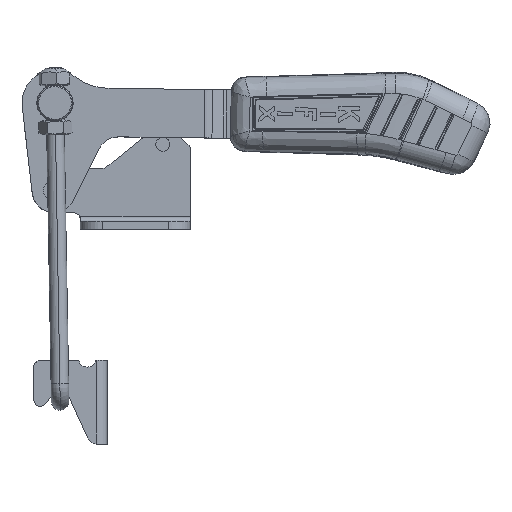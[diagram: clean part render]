
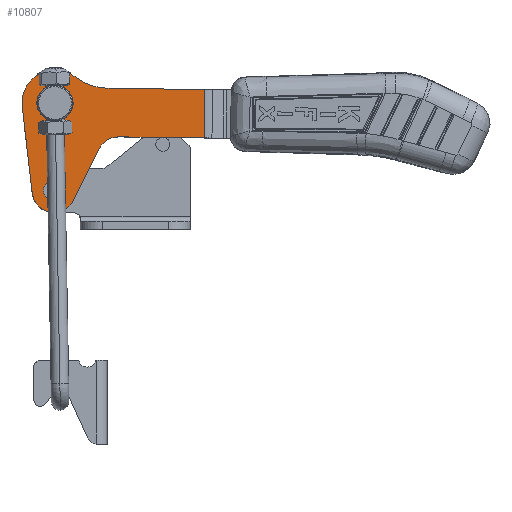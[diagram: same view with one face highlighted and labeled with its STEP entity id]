
A CAD part, top view. The second image highlights one B-rep face of the part: STEP entity #10807.
In plain terms, the highlighted planar face has unit normal (0, 0, 1).
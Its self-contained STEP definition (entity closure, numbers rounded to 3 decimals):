
#69 = ORIENTED_EDGE ( 'NONE', *, *, #8397, .T. ) ;
#117 = VERTEX_POINT ( 'NONE', #678 ) ;
#678 = CARTESIAN_POINT ( 'NONE',  ( -76.974, 11., 8.5 ) ) ;
#966 = LINE ( 'NONE', #9188, #5599 ) ;
#1025 = DIRECTION ( 'NONE',  ( 1., 0., 0. ) ) ;
#1136 = DIRECTION ( 'NONE',  ( 0., 0., 1. ) ) ;
#1266 = AXIS2_PLACEMENT_3D ( 'NONE', #6189, #20021, #8167 ) ;
#2114 = CARTESIAN_POINT ( 'NONE',  ( -159.856, 2.069, 8.5 ) ) ;
#2453 = EDGE_CURVE ( 'NONE', #23562, #3911, #6340, .T. ) ;
#2566 = CARTESIAN_POINT ( 'NONE',  ( -144.981, -35.8, 8.5 ) ) ;
#3233 = CIRCLE ( 'NONE', #18004, 8.25 ) ;
#3391 = LINE ( 'NONE', #23637, #18529 ) ;
#3605 = ORIENTED_EDGE ( 'NONE', *, *, #20645, .T. ) ;
#3664 = CARTESIAN_POINT ( 'NONE',  ( -144.981, -35.8, 8.5 ) ) ;
#3670 = CARTESIAN_POINT ( 'NONE',  ( -135.981, 16., 8.5 ) ) ;
#3911 = VERTEX_POINT ( 'NONE', #22608 ) ;
#3962 = CARTESIAN_POINT ( 'NONE',  ( 1.019, 11., 8.5 ) ) ;
#4412 = LINE ( 'NONE', #3962, #24224 ) ;
#4476 = CARTESIAN_POINT ( 'NONE',  ( -115.74, -21., 8.5 ) ) ;
#4486 = DIRECTION ( 'NONE',  ( 1., 0., 0. ) ) ;
#4562 = DIRECTION ( 'NONE',  ( 1., 0., 0. ) ) ;
#4576 = FACE_BOUND ( 'NONE', #18660, .T. ) ;
#4602 = DIRECTION ( 'NONE',  ( 0., 0., 1. ) ) ;
#4675 = CIRCLE ( 'NONE', #20271, 10. ) ;
#4721 = EDGE_CURVE ( 'NONE', #3911, #23562, #16758, .T. ) ;
#5599 = VECTOR ( 'NONE', #11178, 1000. ) ;
#5613 = CARTESIAN_POINT ( 'NONE',  ( -76.974, -11., 8.5 ) ) ;
#5652 = DIRECTION ( 'NONE',  ( 1., 0., 0. ) ) ;
#6189 = CARTESIAN_POINT ( 'NONE',  ( -144.981, 4., 8.5 ) ) ;
#6340 = CIRCLE ( 'NONE', #10919, 4. ) ;
#6469 = DIRECTION ( 'NONE',  ( 1., 0., 0. ) ) ;
#6615 = EDGE_CURVE ( 'NONE', #14985, #13432, #9015, .T. ) ;
#6892 = EDGE_CURVE ( 'NONE', #17181, #15847, #4675, .T. ) ;
#7044 = ORIENTED_EDGE ( 'NONE', *, *, #24983, .T. ) ;
#7045 = VERTEX_POINT ( 'NONE', #10700 ) ;
#7217 = EDGE_LOOP ( 'NONE', ( #69, #16075, #23430, #12691, #7044, #21148, #19403, #25192, #3605 ) ) ;
#7411 = VERTEX_POINT ( 'NONE', #2114 ) ;
#7435 = CARTESIAN_POINT ( 'NONE',  ( -124.741, -16.644, 8.5 ) ) ;
#8167 = DIRECTION ( 'NONE',  ( 1., 0., 0. ) ) ;
#8397 = EDGE_CURVE ( 'NONE', #8783, #117, #3391, .T. ) ;
#8783 = VERTEX_POINT ( 'NONE', #5613 ) ;
#9015 = CIRCLE ( 'NONE', #14143, 9.875 ) ;
#9136 = AXIS2_PLACEMENT_3D ( 'NONE', #3664, #17471, #5652 ) ;
#9188 = CARTESIAN_POINT ( 'NONE',  ( -154.774, -37.072, 8.5 ) ) ;
#9213 = FACE_OUTER_BOUND ( 'NONE', #7217, .T. ) ;
#9842 = DIRECTION ( 'NONE',  ( -1., 0., 0. ) ) ;
#10300 = EDGE_CURVE ( 'NONE', #22213, #11640, #21325, .T. ) ;
#10468 = DIRECTION ( 'NONE',  ( 0., 0., 1. ) ) ;
#10490 = LINE ( 'NONE', #20135, #11119 ) ;
#10604 = DIRECTION ( 'NONE',  ( 0., 0., -1. ) ) ;
#10700 = CARTESIAN_POINT ( 'NONE',  ( -120.981, 11., 8.5 ) ) ;
#10807 = ADVANCED_FACE ( 'NONE', ( #9213, #14493, #4576 ), #16727, .F. ) ;
#10919 = AXIS2_PLACEMENT_3D ( 'NONE', #2566, #16388, #4562 ) ;
#10954 = ORIENTED_EDGE ( 'NONE', *, *, #13678, .F. ) ;
#11119 = VECTOR ( 'NONE', #4486, 1000. ) ;
#11178 = DIRECTION ( 'NONE',  ( 0.129, -0.992, 0. ) ) ;
#11439 = LINE ( 'NONE', #14217, #21968 ) ;
#11640 = VERTEX_POINT ( 'NONE', #22294 ) ;
#11653 = AXIS2_PLACEMENT_3D ( 'NONE', #22469, #10604, #24454 ) ;
#12691 = ORIENTED_EDGE ( 'NONE', *, *, #21111, .T. ) ;
#12878 = DIRECTION ( 'NONE',  ( 0., 0., -1. ) ) ;
#12984 = CARTESIAN_POINT ( 'NONE',  ( -144.981, -35.8, 8.5 ) ) ;
#13432 = VERTEX_POINT ( 'NONE', #21061 ) ;
#13678 = EDGE_CURVE ( 'NONE', #11640, #22213, #3233, .T. ) ;
#14143 = AXIS2_PLACEMENT_3D ( 'NONE', #12984, #1136, #14977 ) ;
#14217 = CARTESIAN_POINT ( 'NONE',  ( -136.092, -40.101, 8.5 ) ) ;
#14493 = FACE_BOUND ( 'NONE', #20099, .T. ) ;
#14977 = DIRECTION ( 'NONE',  ( 1., 0., 0. ) ) ;
#14985 = VERTEX_POINT ( 'NONE', #21365 ) ;
#15847 = VERTEX_POINT ( 'NONE', #17928 ) ;
#16075 = ORIENTED_EDGE ( 'NONE', *, *, #23808, .T. ) ;
#16318 = VERTEX_POINT ( 'NONE', #3670 ) ;
#16388 = DIRECTION ( 'NONE',  ( 0., 0., 1. ) ) ;
#16423 = CARTESIAN_POINT ( 'NONE',  ( -144.981, 4., 8.5 ) ) ;
#16727 = PLANE ( 'NONE',  #17275 ) ;
#16758 = CIRCLE ( 'NONE', #9136, 4. ) ;
#17181 = VERTEX_POINT ( 'NONE', #7435 ) ;
#17275 = AXIS2_PLACEMENT_3D ( 'NONE', #22242, #12878, #1025 ) ;
#17458 = EDGE_CURVE ( 'NONE', #7045, #16318, #24524, .T. ) ;
#17471 = DIRECTION ( 'NONE',  ( 0., 0., 1. ) ) ;
#17928 = CARTESIAN_POINT ( 'NONE',  ( -115.74, -11., 8.5 ) ) ;
#18004 = AXIS2_PLACEMENT_3D ( 'NONE', #22327, #10468, #24310 ) ;
#18274 = DIRECTION ( 'NONE',  ( 0., 0., -1. ) ) ;
#18405 = DIRECTION ( 'NONE',  ( 1., 0., 0. ) ) ;
#18529 = VECTOR ( 'NONE', #23735, 1000. ) ;
#18660 = EDGE_LOOP ( 'NONE', ( #10954, #22122 ) ) ;
#18981 = CIRCLE ( 'NONE', #1266, 15. ) ;
#19259 = CARTESIAN_POINT ( 'NONE',  ( -153.231, 4., 8.5 ) ) ;
#19403 = ORIENTED_EDGE ( 'NONE', *, *, #20258, .T. ) ;
#20021 = DIRECTION ( 'NONE',  ( 0., 0., 1. ) ) ;
#20099 = EDGE_LOOP ( 'NONE', ( #23643, #24655 ) ) ;
#20135 = CARTESIAN_POINT ( 'NONE',  ( 1.019, -11., 8.5 ) ) ;
#20258 = EDGE_CURVE ( 'NONE', #13432, #17181, #11439, .T. ) ;
#20271 = AXIS2_PLACEMENT_3D ( 'NONE', #4476, #18274, #6469 ) ;
#20645 = EDGE_CURVE ( 'NONE', #15847, #8783, #10490, .T. ) ;
#21061 = CARTESIAN_POINT ( 'NONE',  ( -136.092, -40.101, 8.5 ) ) ;
#21111 = EDGE_CURVE ( 'NONE', #16318, #7411, #18981, .T. ) ;
#21148 = ORIENTED_EDGE ( 'NONE', *, *, #6615, .T. ) ;
#21325 = CIRCLE ( 'NONE', #22289, 8.25 ) ;
#21365 = CARTESIAN_POINT ( 'NONE',  ( -154.774, -37.072, 8.5 ) ) ;
#21968 = VECTOR ( 'NONE', #24079, 1000. ) ;
#22122 = ORIENTED_EDGE ( 'NONE', *, *, #10300, .F. ) ;
#22213 = VERTEX_POINT ( 'NONE', #19259 ) ;
#22242 = CARTESIAN_POINT ( 'NONE',  ( 1.019, 0., 8.5 ) ) ;
#22289 = AXIS2_PLACEMENT_3D ( 'NONE', #16423, #4602, #18405 ) ;
#22294 = CARTESIAN_POINT ( 'NONE',  ( -136.731, 4., 8.5 ) ) ;
#22327 = CARTESIAN_POINT ( 'NONE',  ( -144.981, 4., 8.5 ) ) ;
#22469 = CARTESIAN_POINT ( 'NONE',  ( -120.981, 36., 8.5 ) ) ;
#22608 = CARTESIAN_POINT ( 'NONE',  ( -148.981, -35.8, 8.5 ) ) ;
#23094 = CARTESIAN_POINT ( 'NONE',  ( -140.981, -35.8, 8.5 ) ) ;
#23430 = ORIENTED_EDGE ( 'NONE', *, *, #17458, .T. ) ;
#23562 = VERTEX_POINT ( 'NONE', #23094 ) ;
#23637 = CARTESIAN_POINT ( 'NONE',  ( -76.974, 0., 8.5 ) ) ;
#23643 = ORIENTED_EDGE ( 'NONE', *, *, #2453, .F. ) ;
#23735 = DIRECTION ( 'NONE',  ( 0., 1., 0. ) ) ;
#23808 = EDGE_CURVE ( 'NONE', #117, #7045, #4412, .T. ) ;
#24079 = DIRECTION ( 'NONE',  ( 0.436, 0.9, 0. ) ) ;
#24224 = VECTOR ( 'NONE', #9842, 1000. ) ;
#24310 = DIRECTION ( 'NONE',  ( 1., 0., 0. ) ) ;
#24454 = DIRECTION ( 'NONE',  ( 1., 0., 0. ) ) ;
#24524 = CIRCLE ( 'NONE', #11653, 25. ) ;
#24655 = ORIENTED_EDGE ( 'NONE', *, *, #4721, .F. ) ;
#24983 = EDGE_CURVE ( 'NONE', #7411, #14985, #966, .T. ) ;
#25192 = ORIENTED_EDGE ( 'NONE', *, *, #6892, .T. ) ;
